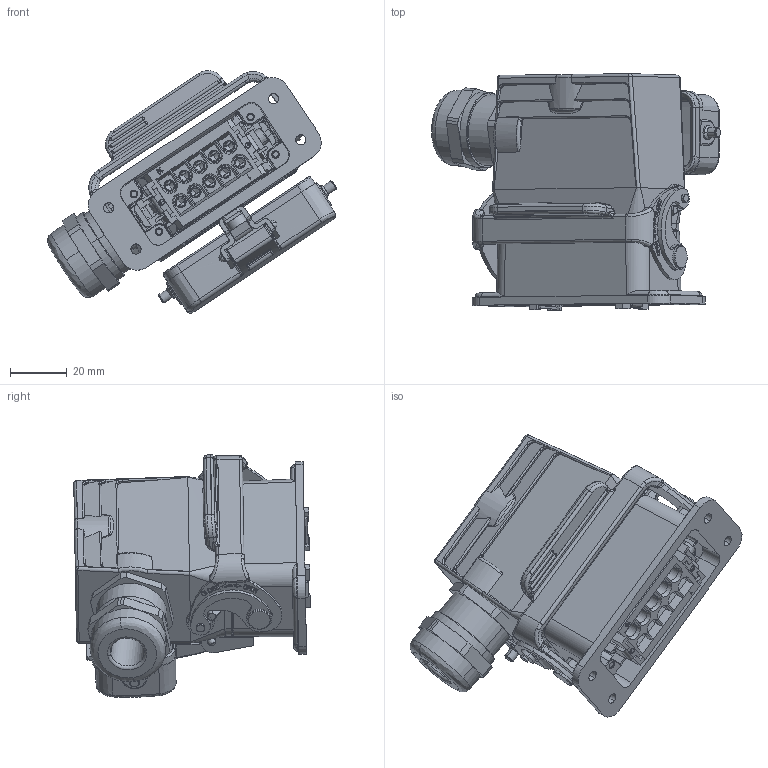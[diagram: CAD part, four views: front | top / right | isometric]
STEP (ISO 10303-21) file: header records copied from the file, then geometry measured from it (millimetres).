
FILE_DESCRIPTION (( 'STEP AP203' ), '1' );
FILE_NAME ('09010005120P H10A HA、10针、开孔带盖底座、侧出M20套件.STEP', '2024-04-18T05:36:41', ( 'L' ), ( '' ), 'SwSTEP 2.0', 'SolidWorks 2019', '' );
FILE_SCHEMA (( 'CONFIG_CONTROL_DESIGN' ));
Length unit declared in the file: millimetre
Products named in the file (6): HA-010-F.stp; H10A-TS-M20.step; FAS-20-P.step; 09010005120P H10A HA、10针、开孔带盖底座、侧出M20套件; HA-010-M.stp; H10A-AD.step
Assembly tree (5 placements, depth 2):
  09010005120P H10A HA、10针、开孔带盖底座、侧出M20套件
    HA-010-M.stp
    HA-010-F.stp
    H10A-AD.step
    H10A-TS-M20.step
    FAS-20-P.step
Bounding box: 102.25 x 83.68 x 85.86 mm (x, y, z)
Volume: 127496.6 mm3; surface area: 84878.4 mm2
Topology: 7 solids, 12 shells, 3706 faces, 9859 edges, 6291 vertices
Faces by surface type: plane 1812, cylinder 999, bspline 469, cone 319, torus 83, sphere 24
Full cylindrical faces by diameter (mm): 0.4 x2
Entity records: 140884 total; most frequent: CARTESIAN_POINT 52665, ORIENTED_EDGE 19430, DIRECTION 16463, EDGE_CURVE 9715, VERTEX_POINT 6264, VECTOR 5579, LINE 5579, AXIS2_PLACEMENT_3D 5442
